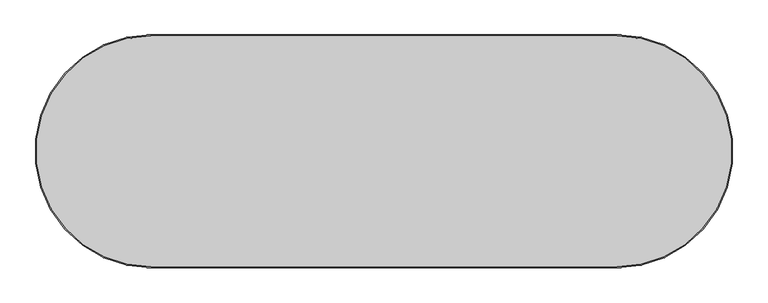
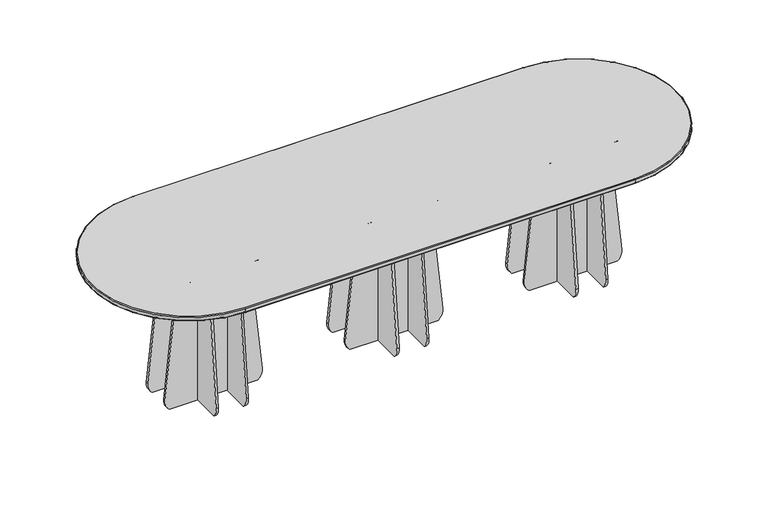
"""IFC4 building model written with IfcOpenShell, lengths in millimetres: furniture geometry, Lundbergs Möbler - Funghi Ovale - Table - Oval - 360x120 - H90 : Lundbergs Möbler - Funghi Ovale - Table - Oval - 360x120 - H90."""

from ifc_helpers import new_model, si_unit, point, frame, frame_2d, origin, place, context, project, spatial, polyline, circle_curve, ellipse_curve, trimmed, segment, composite_curve, outline, extrude, source, transform, mapped, element, save
from ifc_brep_helpers import plane_surface, cylinder_surface, revolved_surface, advanced_brep


def furniture_08dae37b(model_context):
    return source(origin(), model_context, "Body", "SolidModel", [
        advanced_brep(
        [(1200.0000092, 600.0000046, 875.000378), (1200.0000092, -600.0000046, 875.000378), (1200.0000092, -595.0000046, 870.000378), (1200.0000092, 595.0000046, 870.000378), (1200.0000092, 600.0000046, 895.0), (1200.0000092, -600.0000046, 895.0), (-1200.0000092, 595.0000046, 870.000378), (-1200.0000092, 600.0000046, 875.000378), (-1200.0000092, -595.0000046, 870.000378), (-1200.0000092, -600.0000046, 875.000378), (-1200.0000092, 600.0000046, 895.0), (-1200.0000092, -600.0000046, 895.0), (1200.0000092, 595.0000046, 900.0), (-1200.0000092, 595.0000046, 900.0), (-1200.0000092, -595.0000046, 900.0), (1200.0000092, -595.0000046, 900.0)],
        [
            (0, 1, circle_curve(frame((1200.0000092, 0.0, 875.000378), z_axis=(0.0, 0.0, -1.0), x_axis=(0.0, -1.0, 0.0)), 600.0000046)),
            (1, 2, circle_curve(frame((1200.0000092, -595.0000046, 875.000378), z_axis=(1.0, 0.0, 0.0), x_axis=(0.0, 1.0, 0.0)), 5.0)),
            (2, 3, circle_curve(frame((1200.0000092, 0.0, 870.000378), z_axis=(0.0, 0.0, 1.0), x_axis=(0.0, -1.0, 0.0)), 595.0000046)),
            (3, 0, circle_curve(frame((1200.0000092, 595.0000046, 875.000378), z_axis=(1.0, 0.0, 0.0), x_axis=(0.0, -1.0, 0.0)), 5.0)),
            (0, 4),
            (4, 5, circle_curve(frame((1200.0000092, 0.0, 895.0), z_axis=(0.0, 0.0, -1.0), x_axis=(0.0, -1.0, 0.0)), 600.0000046)),
            (5, 1),
            (3, 6),
            (6, 7, circle_curve(frame((-1200.0000092, 595.0000046, 875.000378), z_axis=(1.0, 0.0, 0.0), x_axis=(0.0, -1.0, 0.0)), 5.0)),
            (7, 0),
            (6, 8, circle_curve(frame((-1200.0000092, 0.0, 870.000378), z_axis=(0.0, 0.0, 1.0), x_axis=(0.0, 1.0, 0.0)), 595.0000046)),
            (8, 9, circle_curve(frame((-1200.0000092, -595.0000046, 875.000378), z_axis=(-1.0, 0.0, 0.0), x_axis=(0.0, 1.0, 0.0)), 5.0)),
            (9, 7, circle_curve(frame((-1200.0000092, 0.0, 875.000378), z_axis=(0.0, 0.0, -1.0), x_axis=(0.0, 1.0, 0.0)), 600.0000046)),
            (10, 7),
            (9, 11),
            (11, 10, circle_curve(frame((-1200.0000092, 0.0, 895.0), z_axis=(0.0, 0.0, -1.0), x_axis=(0.0, 1.0, 0.0)), 600.0000046)),
            (12, 13),
            (13, 14, circle_curve(frame((-1200.0000092, 0.0, 900.0), z_axis=(0.0, 0.0, 1.0), x_axis=(0.0, 1.0, 0.0)), 595.0000046)),
            (14, 15),
            (15, 12, circle_curve(frame((1200.0000092, 0.0, 900.0), z_axis=(0.0, 0.0, 1.0), x_axis=(0.0, -1.0, 0.0)), 595.0000046)),
            (2, 8),
            (1, 9),
            (10, 4),
            (5, 11),
            (4, 12, circle_curve(frame((1200.0000092, 595.0000046, 895.0), z_axis=(1.0, 0.0, 0.0), x_axis=(0.0, -1.0, 0.0)), 5.0)),
            (15, 5, circle_curve(frame((1200.0000092, -595.0000046, 895.0), z_axis=(1.0, 0.0, 0.0), x_axis=(0.0, 1.0, 0.0)), 5.0)),
            (10, 13, circle_curve(frame((-1200.0000092, 595.0000046, 895.0), z_axis=(1.0, 0.0, 0.0), x_axis=(0.0, -1.0, 0.0)), 5.0)),
            (11, 14, circle_curve(frame((-1200.0000092, -595.0000046, 895.0), z_axis=(-1.0, 0.0, 0.0), x_axis=(0.0, 1.0, 0.0)), 5.0)),
        ],
        [
            revolved_surface(trimmed(ellipse_curve(frame((1200.0000092, -595.0000046, 875.000378), z_axis=(-1.0, 0.0, 0.0), x_axis=(0.0, 1.0, 0.0)), 5.0, 5.0), [point((1200.0000092, -595.0000046, 870.000378))], [point((1200.0000092, -600.0000046, 875.000378))], True, "CARTESIAN"), (1200.0000092, 0.0, 170.0), (0.0, 0.0, 1.0)),
            cylinder_surface(frame((1200.0000092, 0.0, 170.0), z_axis=(0.0, 0.0, 1.0), x_axis=(0.0, -1.0, 0.0)), 600.0000046),
            cylinder_surface(frame((1200.0000092, 595.0000046, 875.000378), z_axis=(1.0, 0.0, 0.0), x_axis=(0.0, -1.0, 0.0)), 5.0),
            revolved_surface(trimmed(ellipse_curve(frame((-1200.0000092, 595.0000046, 875.000378), z_axis=(1.0, 0.0, 0.0), x_axis=(0.0, -1.0, 0.0)), 5.0, 5.0), [point((-1200.0000092, 595.0000046, 870.000378))], [point((-1200.0000092, 600.0000046, 875.000378))], True, "CARTESIAN"), (-1200.0000092, 0.0, 170.0), (0.0, 0.0, 1.0)),
            cylinder_surface(frame((-1200.0000092, 0.0, 170.0), z_axis=(0.0, 0.0, 1.0), x_axis=(0.0, 1.0, 0.0)), 600.0000046),
            plane_surface(frame((-1200.0000092, -595.0000046, 900.0), z_axis=(0.0, 0.0, 1.0), x_axis=(1.0, 0.0, 0.0))),
            plane_surface(frame((-1200.0000092, -547.4635133, 870.000378), z_axis=(0.0, 0.0, -1.0), x_axis=(1.0, 0.0, 0.0))),
            cylinder_surface(frame((-1200.0000092, -595.0000046, 875.000378), z_axis=(-1.0, 0.0, 0.0), x_axis=(0.0, 1.0, 0.0)), 5.0),
            plane_surface(frame((1200.0000092, 600.0000046, 875.000378), z_axis=(0.0, 1.0, 0.0), x_axis=(-1.0, 0.0, 0.0))),
            plane_surface(frame((-1200.0000092, -600.0000046, 875.000378), z_axis=(0.0, -1.0, 0.0), x_axis=(1.0, 0.0, 0.0))),
            revolved_surface(trimmed(ellipse_curve(frame((1200.0000092, -595.0000046, 895.0), z_axis=(-1.0, 0.0, 0.0), x_axis=(0.0, 1.0, 0.0)), 5.0, 5.0), [point((1200.0000092, -600.0000046, 895.0))], [point((1200.0000092, -595.0000046, 900.0))], True, "CARTESIAN"), (1200.0000092, 0.0, 170.0), (0.0, 0.0, 1.0)),
            cylinder_surface(frame((1200.0000092, 595.0000046, 895.0), z_axis=(1.0, 0.0, 0.0), x_axis=(0.0, -1.0, 0.0)), 5.0),
            revolved_surface(trimmed(ellipse_curve(frame((-1200.0000092, 595.0000046, 895.0), z_axis=(1.0, 0.0, 0.0), x_axis=(0.0, -1.0, 0.0)), 5.0, 5.0), [point((-1200.0000092, 600.0000046, 895.0))], [point((-1200.0000092, 595.0000046, 900.0))], True, "CARTESIAN"), (-1200.0000092, 0.0, 170.0), (0.0, 0.0, 1.0)),
            cylinder_surface(frame((-1200.0000092, -595.0000046, 895.0), z_axis=(-1.0, 0.0, 0.0), x_axis=(0.0, 1.0, 0.0)), 5.0),
        ],
        [
            (0, [[1, 2, 3, 4]]),
            (1, [[-1, 5, 6, 7]]),
            (2, [[-4, 8, 9, 10]]),
            (3, [[-9, 11, 12, 13]]),
            (4, [[14, -13, 15, 16]]),
            (5, [[17, 18, 19, 20]]),
            (6, [[-3, 21, -11, -8]]),
            (7, [[-2, 22, -12, -21]]),
            (8, [[-5, -10, -14, 23]]),
            (9, [[-7, 24, -15, -22]]),
            (10, [[-6, 25, -20, 26]]),
            (11, [[-23, 27, -17, -25]]),
            (12, [[-16, 28, -18, -27]]),
            (13, [[-19, -28, -24, -26]]),
        ],
    ),
        extrude(outline(composite_curve([segment(trimmed(circle_curve(frame_2d((868.3873965, 196.2845895)), 8.5), [point((859.8873965, 196.2845895))], [point((868.3873965, 204.7845895))], False, "CARTESIAN"), True, "CONTINUOUS"), segment(polyline([(868.3873965, 204.7845895), (870.000378, 204.7845895), (870.000378, -204.7845895), (868.3873965, -204.7845895)]), True, "CONTINUOUS"), segment(trimmed(circle_curve(frame_2d((868.3873965, -196.2845895)), 8.5), [point((868.3873965, -204.7845895))], [point((859.8873965, -196.2845895))], False, "CARTESIAN"), True, "CONTINUOUS"), segment(polyline([(859.8873965, -196.2845895), (859.8873965, 196.2845895)]), True, "CONTINUOUS")], self_intersect=False)), frame((0.0, 194.900004, 0.0), z_axis=(0.0, 1.0, 0.0), x_axis=(0.0, 0.0, 1.0)), (0.0, 0.0, 1.0), 19.9999965),
        extrude(outline(composite_curve([segment(trimmed(circle_curve(frame_2d((-196.2845895, 868.3873965)), 8.5), [point((-196.2845895, 859.8873965))], [point((-204.7845895, 868.3873965))], False, "CARTESIAN"), True, "CONTINUOUS"), segment(polyline([(-204.7845895, 868.3873965), (-204.7845895, 870.000378), (204.7845895, 870.000378), (204.7845895, 868.3873965)]), True, "CONTINUOUS"), segment(trimmed(circle_curve(frame_2d((196.2845895, 868.3873965)), 8.5), [point((204.7845895, 868.3873965))], [point((196.2845895, 859.8873965))], False, "CARTESIAN"), True, "CONTINUOUS"), segment(polyline([(196.2845895, 859.8873965), (-196.2845895, 859.8873965)]), True, "CONTINUOUS")], self_intersect=False)), frame((200.425993, 0.0, 0.0), z_axis=(1.0, 0.0, 0.0), x_axis=(0.0, 1.0, 0.0)), (0.0, 0.0, 1.0), 20.0000147),
        extrude(outline(composite_curve([segment(trimmed(circle_curve(frame_2d((-196.2845895, 868.3873965)), 8.5), [point((-196.2845895, 859.8873965))], [point((-204.7845895, 868.3873965))], False, "CARTESIAN"), True, "CONTINUOUS"), segment(polyline([(-204.7845895, 868.3873965), (-204.7845895, 870.000378), (204.7845895, 870.000378), (204.7845895, 868.3873965)]), True, "CONTINUOUS"), segment(trimmed(circle_curve(frame_2d((196.2845895, 868.3873965)), 8.5), [point((204.7845895, 868.3873965))], [point((196.2845895, 859.8873965))], False, "CARTESIAN"), True, "CONTINUOUS"), segment(polyline([(196.2845895, 859.8873965), (-196.2845895, 859.8873965)]), True, "CONTINUOUS")], self_intersect=False)), frame((-211.3740166, 0.0, 0.0), z_axis=(1.0, 0.0, 0.0), x_axis=(0.0, 1.0, 0.0)), (0.0, 0.0, 1.0), 19.999942),
        extrude(outline(composite_curve([segment(trimmed(circle_curve(frame_2d((868.3873965, 196.2845895)), 8.5), [point((859.8873965, 196.2845895))], [point((868.3873965, 204.7845895))], False, "CARTESIAN"), True, "CONTINUOUS"), segment(polyline([(868.3873965, 204.7845895), (870.000378, 204.7845895), (870.000378, -204.7845895), (868.3873965, -204.7845895)]), True, "CONTINUOUS"), segment(trimmed(circle_curve(frame_2d((868.3873965, -196.2845895)), 8.5), [point((868.3873965, -204.7845895))], [point((859.8873965, -196.2845895))], False, "CARTESIAN"), True, "CONTINUOUS"), segment(polyline([(859.8873965, -196.2845895), (859.8873965, 196.2845895)]), True, "CONTINUOUS")], self_intersect=False)), frame((0.0, -216.9000056, 0.0), z_axis=(0.0, 1.0, 0.0), x_axis=(0.0, 0.0, 1.0)), (0.0, 0.0, 1.0), 19.9999965),
        extrude(outline(composite_curve([segment(trimmed(circle_curve(frame_2d((-224.3740969, 59.2172826)), 75.5612131), [point((-271.3082035, 0.0))], [point((-299.5202714, 67.1260989))], False, "CARTESIAN"), True, "CONTINUOUS"), segment(polyline([(-299.5202714, 67.1260989), (-215.0211572, 870.000378), (215.0211572, 870.000378), (299.5202714, 67.1260989)]), True, "CONTINUOUS"), segment(trimmed(circle_curve(frame_2d((224.3740969, 59.2172826)), 75.5612131), [point((299.5202714, 67.1260989))], [point((271.3082035, 0.0))], False, "CARTESIAN"), True, "CONTINUOUS"), segment(polyline([(271.3082035, 0.0), (-271.3082035, 0.0)]), True, "CONTINUOUS")], self_intersect=False)), frame((89.4259853, 0.0, 0.0), z_axis=(1.0, 0.0, 0.0), x_axis=(0.0, 1.0, 0.0)), (0.0, 0.0, 1.0), 13.4999997),
        extrude(outline(composite_curve([segment(trimmed(circle_curve(frame_2d((59.2172834, 228.8001268)), 75.5611848), [point((0.0, 275.7341869))], [point((67.1260989, 303.946273))], False, "CARTESIAN"), True, "CONTINUOUS"), segment(polyline([(67.1260989, 303.946273), (870.000378, 219.4471354), (870.000378, -210.5951111), (67.1260989, -295.0943424)]), True, "CONTINUOUS"), segment(trimmed(circle_curve(frame_2d((59.2172764, -219.9482129)), 75.561169), [point((67.1260989, -295.0943424))], [point((0.0, -266.8822563))], False, "CARTESIAN"), True, "CONTINUOUS"), segment(polyline([(0.0, -266.8822563), (0.0, 275.7341869)]), True, "CONTINUOUS")], self_intersect=False)), frame((0.0, 83.9999963, 0.0), z_axis=(0.0, 1.0, 0.0), x_axis=(0.0, 0.0, 1.0)), (0.0, 0.0, 1.0), 13.4999997),
        extrude(outline(composite_curve([segment(trimmed(circle_curve(frame_2d((59.2172834, 228.8001268)), 75.5611848), [point((0.0, 275.7341869))], [point((67.1260989, 303.946273))], False, "CARTESIAN"), True, "CONTINUOUS"), segment(polyline([(67.1260989, 303.946273), (870.000378, 219.4471354), (870.000378, -210.5951111), (67.1260989, -295.0943424)]), True, "CONTINUOUS"), segment(trimmed(circle_curve(frame_2d((59.2172764, -219.9482129)), 75.561169), [point((67.1260989, -295.0943424))], [point((0.0, -266.8822563))], False, "CARTESIAN"), True, "CONTINUOUS"), segment(polyline([(0.0, -266.8822563), (0.0, 275.7341869)]), True, "CONTINUOUS")], self_intersect=False)), frame((0.0, -99.500004, 0.0), z_axis=(0.0, 1.0, 0.0), x_axis=(0.0, 0.0, 1.0)), (0.0, 0.0, 1.0), 13.4999997),
        extrude(outline(composite_curve([segment(trimmed(circle_curve(frame_2d((-224.3740969, 59.2172826)), 75.5612131), [point((-271.3082035, 0.0))], [point((-299.5202714, 67.1260989))], False, "CARTESIAN"), True, "CONTINUOUS"), segment(polyline([(-299.5202714, 67.1260989), (-215.0211572, 870.000378), (215.0211572, 870.000378), (299.5202714, 67.1260989)]), True, "CONTINUOUS"), segment(trimmed(circle_curve(frame_2d((224.3740969, 59.2172826)), 75.5612131), [point((299.5202714, 67.1260989))], [point((271.3082035, 0.0))], False, "CARTESIAN"), True, "CONTINUOUS"), segment(polyline([(271.3082035, 0.0), (-271.3082035, 0.0)]), True, "CONTINUOUS")], self_intersect=False)), frame((-94.0740059, 0.0, 0.0), z_axis=(1.0, 0.0, 0.0), x_axis=(0.0, 1.0, 0.0)), (0.0, 0.0, 1.0), 13.4999997),
        extrude(outline(composite_curve([segment(polyline([(859.8873965, 913.7414057), (859.8873965, 1306.3105848)]), True, "CONTINUOUS"), segment(trimmed(circle_curve(frame_2d((868.3873965, 1306.3105848)), 8.5), [point((859.8873965, 1306.3105848))], [point((868.3873965, 1314.8105848))], False, "CARTESIAN"), True, "CONTINUOUS"), segment(polyline([(868.3873965, 1314.8105848), (870.000378, 1314.8105848), (870.000378, 905.2414057), (868.3873965, 905.2414057)]), True, "CONTINUOUS"), segment(trimmed(circle_curve(frame_2d((868.3873965, 913.7414057)), 8.5), [point((868.3873965, 905.2414057))], [point((859.8873965, 913.7414057))], False, "CARTESIAN"), True, "CONTINUOUS")], self_intersect=False)), frame((0.0, 194.900004, 0.0), z_axis=(0.0, 1.0, 0.0), x_axis=(0.0, 0.0, 1.0)), (0.0, 0.0, 1.0), 19.9999965),
        extrude(outline(composite_curve([segment(trimmed(circle_curve(frame_2d((-196.2845895, 868.3873965)), 8.5), [point((-196.2845895, 859.8873965))], [point((-204.7845895, 868.3873965))], False, "CARTESIAN"), True, "CONTINUOUS"), segment(polyline([(-204.7845895, 868.3873965), (-204.7845895, 870.000378), (204.7845895, 870.000378), (204.7845895, 868.3873965)]), True, "CONTINUOUS"), segment(trimmed(circle_curve(frame_2d((196.2845895, 868.3873965)), 8.5), [point((204.7845895, 868.3873965))], [point((196.2845895, 859.8873965))], False, "CARTESIAN"), True, "CONTINUOUS"), segment(polyline([(196.2845895, 859.8873965), (-196.2845895, 859.8873965)]), True, "CONTINUOUS")], self_intersect=False)), frame((889.5999876, 0.0, 0.0), z_axis=(1.0, 0.0, 0.0), x_axis=(0.0, 1.0, 0.0)), (0.0, 0.0, 1.0), 20.0000147),
        extrude(outline(composite_curve([segment(trimmed(circle_curve(frame_2d((-196.2845895, 868.3873965)), 8.5), [point((-196.2845895, 859.8873965))], [point((-204.7845895, 868.3873965))], False, "CARTESIAN"), True, "CONTINUOUS"), segment(polyline([(-204.7845895, 868.3873965), (-204.7845895, 870.000378), (204.7845895, 870.000378), (204.7845895, 868.3873965)]), True, "CONTINUOUS"), segment(trimmed(circle_curve(frame_2d((196.2845895, 868.3873965)), 8.5), [point((204.7845895, 868.3873965))], [point((196.2845895, 859.8873965))], False, "CARTESIAN"), True, "CONTINUOUS"), segment(polyline([(196.2845895, 859.8873965), (-196.2845895, 859.8873965)]), True, "CONTINUOUS")], self_intersect=False)), frame((1301.4000698, 0.0, 0.0), z_axis=(1.0, 0.0, 0.0), x_axis=(0.0, 1.0, 0.0)), (0.0, 0.0, 1.0), 19.999942),
        extrude(outline(composite_curve([segment(polyline([(859.8873965, 913.7414057), (859.8873965, 1306.3105848)]), True, "CONTINUOUS"), segment(trimmed(circle_curve(frame_2d((868.3873965, 1306.3105848)), 8.5), [point((859.8873965, 1306.3105848))], [point((868.3873965, 1314.8105848))], False, "CARTESIAN"), True, "CONTINUOUS"), segment(polyline([(868.3873965, 1314.8105848), (870.000378, 1314.8105848), (870.000378, 905.2414057), (868.3873965, 905.2414057)]), True, "CONTINUOUS"), segment(trimmed(circle_curve(frame_2d((868.3873965, 913.7414057)), 8.5), [point((868.3873965, 905.2414057))], [point((859.8873965, 913.7414057))], False, "CARTESIAN"), True, "CONTINUOUS")], self_intersect=False)), frame((0.0, -216.9000056, 0.0), z_axis=(0.0, 1.0, 0.0), x_axis=(0.0, 0.0, 1.0)), (0.0, 0.0, 1.0), 19.9999965),
        extrude(outline(composite_curve([segment(trimmed(circle_curve(frame_2d((868.3873965, -913.7414057)), 8.5), [point((859.8873965, -913.7414057))], [point((868.3873965, -905.2414057))], False, "CARTESIAN"), True, "CONTINUOUS"), segment(polyline([(868.3873965, -905.2414057), (870.000378, -905.2414057), (870.000378, -1314.8105848), (868.3873965, -1314.8105848)]), True, "CONTINUOUS"), segment(trimmed(circle_curve(frame_2d((868.3873965, -1306.3105848)), 8.5), [point((868.3873965, -1314.8105848))], [point((859.8873965, -1306.3105848))], False, "CARTESIAN"), True, "CONTINUOUS"), segment(polyline([(859.8873965, -1306.3105848), (859.8873965, -913.7414057)]), True, "CONTINUOUS")], self_intersect=False)), frame((0.0, 194.900004, 0.0), z_axis=(0.0, 1.0, 0.0), x_axis=(0.0, 0.0, 1.0)), (0.0, 0.0, 1.0), 19.9999965),
        extrude(outline(composite_curve([segment(trimmed(circle_curve(frame_2d((-196.2845895, 868.3873965)), 8.5), [point((-196.2845895, 859.8873965))], [point((-204.7845895, 868.3873965))], False, "CARTESIAN"), True, "CONTINUOUS"), segment(polyline([(-204.7845895, 868.3873965), (-204.7845895, 870.000378), (204.7845895, 870.000378), (204.7845895, 868.3873965)]), True, "CONTINUOUS"), segment(trimmed(circle_curve(frame_2d((196.2845895, 868.3873965)), 8.5), [point((204.7845895, 868.3873965))], [point((196.2845895, 859.8873965))], False, "CARTESIAN"), True, "CONTINUOUS"), segment(polyline([(196.2845895, 859.8873965), (-196.2845895, 859.8873965)]), True, "CONTINUOUS")], self_intersect=False)), frame((-909.6000023, 0.0, 0.0), z_axis=(1.0, 0.0, 0.0), x_axis=(0.0, 1.0, 0.0)), (0.0, 0.0, 1.0), 20.0000147),
        extrude(outline(composite_curve([segment(trimmed(circle_curve(frame_2d((-196.2845895, 868.3873965)), 8.5), [point((-196.2845895, 859.8873965))], [point((-204.7845895, 868.3873965))], False, "CARTESIAN"), True, "CONTINUOUS"), segment(polyline([(-204.7845895, 868.3873965), (-204.7845895, 870.000378), (204.7845895, 870.000378), (204.7845895, 868.3873965)]), True, "CONTINUOUS"), segment(trimmed(circle_curve(frame_2d((196.2845895, 868.3873965)), 8.5), [point((204.7845895, 868.3873965))], [point((196.2845895, 859.8873965))], False, "CARTESIAN"), True, "CONTINUOUS"), segment(polyline([(196.2845895, 859.8873965), (-196.2845895, 859.8873965)]), True, "CONTINUOUS")], self_intersect=False)), frame((-1321.4000118, 0.0, 0.0), z_axis=(1.0, 0.0, 0.0), x_axis=(0.0, 1.0, 0.0)), (0.0, 0.0, 1.0), 19.999942),
        extrude(outline(composite_curve([segment(trimmed(circle_curve(frame_2d((868.3873965, -913.7414057)), 8.5), [point((859.8873965, -913.7414057))], [point((868.3873965, -905.2414057))], False, "CARTESIAN"), True, "CONTINUOUS"), segment(polyline([(868.3873965, -905.2414057), (870.000378, -905.2414057), (870.000378, -1314.8105848), (868.3873965, -1314.8105848)]), True, "CONTINUOUS"), segment(trimmed(circle_curve(frame_2d((868.3873965, -1306.3105848)), 8.5), [point((868.3873965, -1314.8105848))], [point((859.8873965, -1306.3105848))], False, "CARTESIAN"), True, "CONTINUOUS"), segment(polyline([(859.8873965, -1306.3105848), (859.8873965, -913.7414057)]), True, "CONTINUOUS")], self_intersect=False)), frame((0.0, -216.9000056, 0.0), z_axis=(0.0, 1.0, 0.0), x_axis=(0.0, 0.0, 1.0)), (0.0, 0.0, 1.0), 19.9999965),
        extrude(outline(composite_curve([segment(trimmed(circle_curve(frame_2d((-224.3740969, 59.2172826)), 75.5612131), [point((-271.3082035, 0.0))], [point((-299.5202714, 67.1260989))], False, "CARTESIAN"), True, "CONTINUOUS"), segment(polyline([(-299.5202714, 67.1260989), (-215.0211572, 870.000378), (215.0211572, 870.000378), (299.5202714, 67.1260989)]), True, "CONTINUOUS"), segment(trimmed(circle_curve(frame_2d((224.3740969, 59.2172826)), 75.5612131), [point((299.5202714, 67.1260989))], [point((271.3082035, 0.0))], False, "CARTESIAN"), True, "CONTINUOUS"), segment(polyline([(271.3082035, 0.0), (-271.3082035, 0.0)]), True, "CONTINUOUS")], self_intersect=False)), frame((1007.1000103, 0.0, 0.0), z_axis=(1.0, 0.0, 0.0), x_axis=(0.0, 1.0, 0.0)), (0.0, 0.0, 1.0), 13.4999997),
        extrude(outline(composite_curve([segment(polyline([(0.0, 834.2918083), (0.0, 1376.9082516)]), True, "CONTINUOUS"), segment(trimmed(circle_curve(frame_2d((59.2172764, 1329.9742082)), 75.561169), [point((0.0, 1376.9082516))], [point((67.1260989, 1405.1203377))], False, "CARTESIAN"), True, "CONTINUOUS"), segment(polyline([(67.1260989, 1405.1203377), (870.000378, 1320.6211063), (870.000378, 890.5788599), (67.1260989, 806.0797222)]), True, "CONTINUOUS"), segment(trimmed(circle_curve(frame_2d((59.2172834, 881.2258684)), 75.5611848), [point((67.1260989, 806.0797222))], [point((0.0, 834.2918083))], False, "CARTESIAN"), True, "CONTINUOUS")], self_intersect=False)), frame((0.0, 83.9999963, 0.0), z_axis=(0.0, 1.0, 0.0), x_axis=(0.0, 0.0, 1.0)), (0.0, 0.0, 1.0), 13.4999997),
        extrude(outline(composite_curve([segment(polyline([(0.0, 834.2918083), (0.0, 1376.9082516)]), True, "CONTINUOUS"), segment(trimmed(circle_curve(frame_2d((59.2172764, 1329.9742082)), 75.561169), [point((0.0, 1376.9082516))], [point((67.1260989, 1405.1203377))], False, "CARTESIAN"), True, "CONTINUOUS"), segment(polyline([(67.1260989, 1405.1203377), (870.000378, 1320.6211063), (870.000378, 890.5788599), (67.1260989, 806.0797222)]), True, "CONTINUOUS"), segment(trimmed(circle_curve(frame_2d((59.2172834, 881.2258684)), 75.5611848), [point((67.1260989, 806.0797222))], [point((0.0, 834.2918083))], False, "CARTESIAN"), True, "CONTINUOUS")], self_intersect=False)), frame((0.0, -99.500004, 0.0), z_axis=(0.0, 1.0, 0.0), x_axis=(0.0, 0.0, 1.0)), (0.0, 0.0, 1.0), 13.4999997),
        extrude(outline(composite_curve([segment(trimmed(circle_curve(frame_2d((-224.3740969, 59.2172826)), 75.5612131), [point((-271.3082035, 0.0))], [point((-299.5202714, 67.1260989))], False, "CARTESIAN"), True, "CONTINUOUS"), segment(polyline([(-299.5202714, 67.1260989), (-215.0211572, 870.000378), (215.0211572, 870.000378), (299.5202714, 67.1260989)]), True, "CONTINUOUS"), segment(trimmed(circle_curve(frame_2d((224.3740969, 59.2172826)), 75.5612131), [point((299.5202714, 67.1260989))], [point((271.3082035, 0.0))], False, "CARTESIAN"), True, "CONTINUOUS"), segment(polyline([(271.3082035, 0.0), (-271.3082035, 0.0)]), True, "CONTINUOUS")], self_intersect=False)), frame((1190.6000015, 0.0, 0.0), z_axis=(1.0, 0.0, 0.0), x_axis=(0.0, 1.0, 0.0)), (0.0, 0.0, 1.0), 13.4999997),
        extrude(outline(composite_curve([segment(trimmed(circle_curve(frame_2d((-224.3740969, 59.2172826)), 75.5612131), [point((-271.3082035, 0.0))], [point((-299.5202714, 67.1260989))], False, "CARTESIAN"), True, "CONTINUOUS"), segment(polyline([(-299.5202714, 67.1260989), (-215.0211572, 870.000378), (215.0211572, 870.000378), (299.5202714, 67.1260989)]), True, "CONTINUOUS"), segment(trimmed(circle_curve(frame_2d((224.3740969, 59.2172826)), 75.5612131), [point((299.5202714, 67.1260989))], [point((271.3082035, 0.0))], False, "CARTESIAN"), True, "CONTINUOUS"), segment(polyline([(271.3082035, 0.0), (-271.3082035, 0.0)]), True, "CONTINUOUS")], self_intersect=False)), frame((-1020.60001, 0.0, 0.0), z_axis=(1.0, 0.0, 0.0), x_axis=(0.0, 1.0, 0.0)), (0.0, 0.0, 1.0), 13.4999997),
        extrude(outline(composite_curve([segment(trimmed(circle_curve(frame_2d((59.2172834, -881.2258684)), 75.5611848), [point((0.0, -834.2918083))], [point((67.1260989, -806.0797222))], False, "CARTESIAN"), True, "CONTINUOUS"), segment(polyline([(67.1260989, -806.0797222), (870.000378, -890.5788599), (870.000378, -1320.6211063), (67.1260989, -1405.1203377)]), True, "CONTINUOUS"), segment(trimmed(circle_curve(frame_2d((59.2172764, -1329.9742082)), 75.561169), [point((67.1260989, -1405.1203377))], [point((0.0, -1376.9082516))], False, "CARTESIAN"), True, "CONTINUOUS"), segment(polyline([(0.0, -1376.9082516), (0.0, -834.2918083)]), True, "CONTINUOUS")], self_intersect=False)), frame((0.0, 83.9999963, 0.0), z_axis=(0.0, 1.0, 0.0), x_axis=(0.0, 0.0, 1.0)), (0.0, 0.0, 1.0), 13.4999997),
        extrude(outline(composite_curve([segment(trimmed(circle_curve(frame_2d((59.2172834, -881.2258684)), 75.5611848), [point((0.0, -834.2918083))], [point((67.1260989, -806.0797222))], False, "CARTESIAN"), True, "CONTINUOUS"), segment(polyline([(67.1260989, -806.0797222), (870.000378, -890.5788599), (870.000378, -1320.6211063), (67.1260989, -1405.1203377)]), True, "CONTINUOUS"), segment(trimmed(circle_curve(frame_2d((59.2172764, -1329.9742082)), 75.561169), [point((67.1260989, -1405.1203377))], [point((0.0, -1376.9082516))], False, "CARTESIAN"), True, "CONTINUOUS"), segment(polyline([(0.0, -1376.9082516), (0.0, -834.2918083)]), True, "CONTINUOUS")], self_intersect=False)), frame((0.0, -99.500004, 0.0), z_axis=(0.0, 1.0, 0.0), x_axis=(0.0, 0.0, 1.0)), (0.0, 0.0, 1.0), 13.4999997),
        extrude(outline(composite_curve([segment(trimmed(circle_curve(frame_2d((-224.3740969, 59.2172826)), 75.5612131), [point((-271.3082035, 0.0))], [point((-299.5202714, 67.1260989))], False, "CARTESIAN"), True, "CONTINUOUS"), segment(polyline([(-299.5202714, 67.1260989), (-215.0211572, 870.000378), (215.0211572, 870.000378), (299.5202714, 67.1260989)]), True, "CONTINUOUS"), segment(trimmed(circle_curve(frame_2d((224.3740969, 59.2172826)), 75.5612131), [point((299.5202714, 67.1260989))], [point((271.3082035, 0.0))], False, "CARTESIAN"), True, "CONTINUOUS"), segment(polyline([(271.3082035, 0.0), (-271.3082035, 0.0)]), True, "CONTINUOUS")], self_intersect=False)), frame((-1204.1000012, 0.0, 0.0), z_axis=(1.0, 0.0, 0.0), x_axis=(0.0, 1.0, 0.0)), (0.0, 0.0, 1.0), 13.4999997),
    ])


if __name__ == "__main__":
    model = new_model("IFC4")
    model_context = context("Model", 3, world=origin())
    ifc_project = project(units=[si_unit("LENGTHUNIT", "METRE", prefix="MILLI")], contexts=[model_context])
    site = spatial("IfcSite", under=ifc_project)
    building = spatial("IfcBuilding", under=site)
    placement = place(None, origin())
    furniture_shape = furniture_08dae37b(model_context)
    element("IfcFurniture", 1, ObjectType="Lundbergs Möbler - Funghi Ovale - Table - Oval - 360x120 - H90 : Lundbergs Möbler - Funghi Ovale - Table - Oval - 360x120 - H90", at=placement, inside=building, context=model_context, shape_type="MappedRepresentation", body=[
        mapped(furniture_shape, transform((0.0, 0.0, 0.0), x_axis=(1.0, 0.0, 0.0), y_axis=(0.0, 1.0, 0.0), z_axis=(0.0, 0.0, 1.0))),
    ])
    save(model, "model.ifc")
